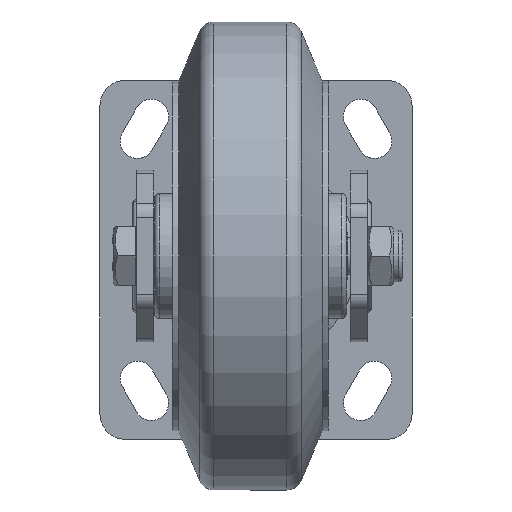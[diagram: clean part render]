
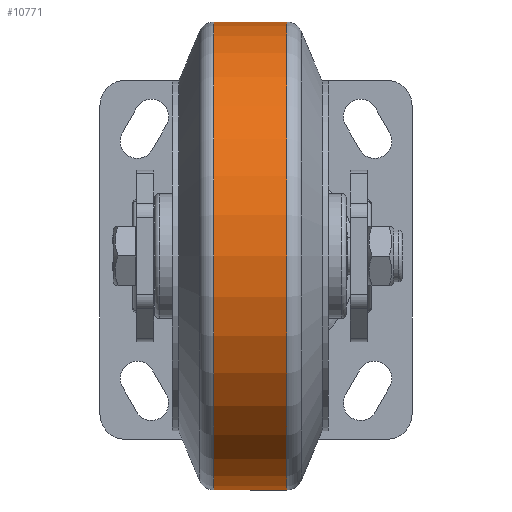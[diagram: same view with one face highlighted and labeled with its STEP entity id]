
A CAD part, front view. The second image highlights one B-rep face of the part: STEP entity #10771.
In plain terms, the highlighted cylindrical face has radius 75 mm (diameter 150 mm), a partial arc.
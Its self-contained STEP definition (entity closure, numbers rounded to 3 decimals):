
#2281 = CARTESIAN_POINT ( 'NONE',  ( 0., 52.68, 75. ) ) ;
#10603 = VERTEX_POINT ( 'NONE', #2281 ) ;
#10767 = EDGE_CURVE ( 'NONE', #10768, #10603, #14718, .T. ) ;
#10768 = VERTEX_POINT ( 'NONE', #14713 ) ;
#10771 = ADVANCED_FACE ( 'NONE', ( #14712 ), #14705, .T. ) ;
#10772 = EDGE_LOOP ( 'NONE', ( #10773, #10774, #10777, #10816 ) ) ;
#10773 = ORIENTED_EDGE ( 'NONE', *, *, #10767, .T. ) ;
#10774 = ORIENTED_EDGE ( 'NONE', *, *, #10775, .T. ) ;
#10775 = EDGE_CURVE ( 'NONE', #10603, #10776, #14701, .T. ) ;
#10776 = VERTEX_POINT ( 'NONE', #14760 ) ;
#10777 = ORIENTED_EDGE ( 'NONE', *, *, #10778, .F. ) ;
#10778 = EDGE_CURVE ( 'NONE', #10815, #10776, #14759, .T. ) ;
#10815 = VERTEX_POINT ( 'NONE', #14850 ) ;
#10816 = ORIENTED_EDGE ( 'NONE', *, *, #10817, .F. ) ;
#10817 = EDGE_CURVE ( 'NONE', #10768, #10815, #14849, .T. ) ;
#14698 = DIRECTION ( 'NONE',  ( 0., -1., 0. ) ) ;
#14699 = VECTOR ( 'NONE', #14698, 1000. ) ;
#14700 = CARTESIAN_POINT ( 'NONE',  ( 0., 0., 75. ) ) ;
#14701 = LINE ( 'NONE', #14700, #14699 ) ;
#14702 = DIRECTION ( 'NONE',  ( 0., 0., -1. ) ) ;
#14703 = DIRECTION ( 'NONE',  ( 0., -1., 0. ) ) ;
#14704 = AXIS2_PLACEMENT_3D ( 'NONE', #14706, #14703, #14702 ) ;
#14705 = CYLINDRICAL_SURFACE ( 'NONE', #14704, 75. ) ;
#14706 = CARTESIAN_POINT ( 'NONE',  ( 0., 0., 0. ) ) ;
#14712 = FACE_OUTER_BOUND ( 'NONE', #10772, .T. ) ;
#14713 = CARTESIAN_POINT ( 'NONE',  ( 0., 52.68, -75. ) ) ;
#14714 = DIRECTION ( 'NONE',  ( 0., 0., -1. ) ) ;
#14715 = DIRECTION ( 'NONE',  ( 0., -1., 0. ) ) ;
#14716 = CARTESIAN_POINT ( 'NONE',  ( 0., 52.68, 0. ) ) ;
#14717 = AXIS2_PLACEMENT_3D ( 'NONE', #14716, #14715, #14714 ) ;
#14718 = CIRCLE ( 'NONE', #14717, 75. ) ;
#14755 = DIRECTION ( 'NONE',  ( 0., 0., -1. ) ) ;
#14756 = DIRECTION ( 'NONE',  ( 0., -1., 0. ) ) ;
#14757 = CARTESIAN_POINT ( 'NONE',  ( 0., 29.32, 0. ) ) ;
#14758 = AXIS2_PLACEMENT_3D ( 'NONE', #14757, #14756, #14755 ) ;
#14759 = CIRCLE ( 'NONE', #14758, 75. ) ;
#14760 = CARTESIAN_POINT ( 'NONE',  ( 0., 29.32, 75. ) ) ;
#14846 = DIRECTION ( 'NONE',  ( 0., -1., 0. ) ) ;
#14847 = VECTOR ( 'NONE', #14846, 1000. ) ;
#14848 = CARTESIAN_POINT ( 'NONE',  ( 0., 0., -75. ) ) ;
#14849 = LINE ( 'NONE', #14848, #14847 ) ;
#14850 = CARTESIAN_POINT ( 'NONE',  ( 0., 29.32, -75. ) ) ;
